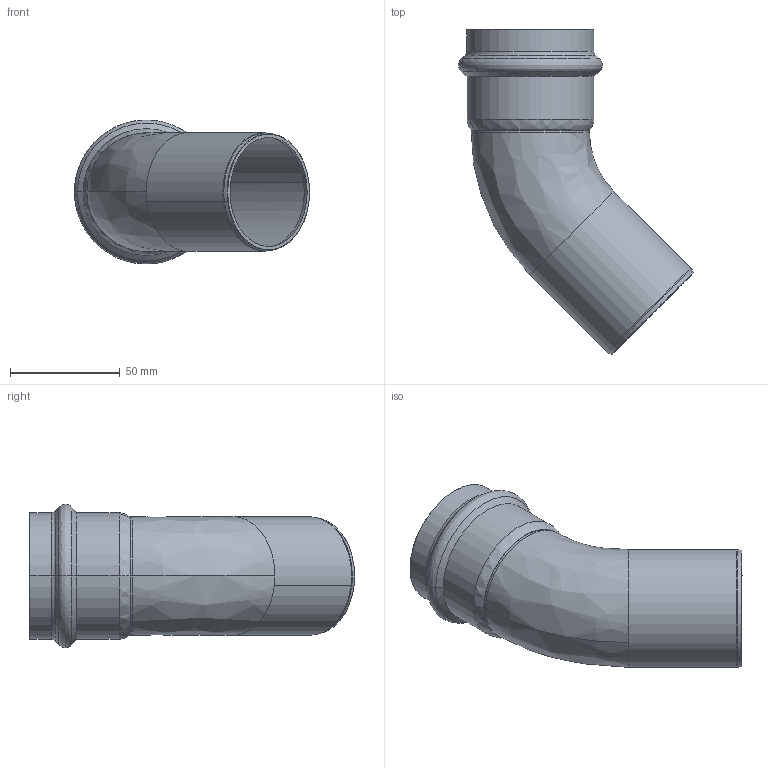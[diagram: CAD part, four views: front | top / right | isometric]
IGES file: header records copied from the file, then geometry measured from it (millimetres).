
Start section: Elysium IGES Interface
Global section: file name: C:\Users\Wallenburg\Desktop\3d modellen sudo\S-Pr VP\SP6040V\6040VW54.igs; native system: CoCreate Modeling 17.00A  17-Jun-2010; preprocessor: CoCreate IGES_3D V2.2; author: Unknown; organization: Unknown; date: 20130116.092712; units: millimetre
Bounding box: 107.34 x 148.49 x 65.65 mm (x, y, z)
Volume: 48229.3 mm3; surface area: 52357.1 mm2
Topology: 1 solids, 1 shells, 60 faces, 130 edges, 74 vertices
Faces by surface type: bspline 60
